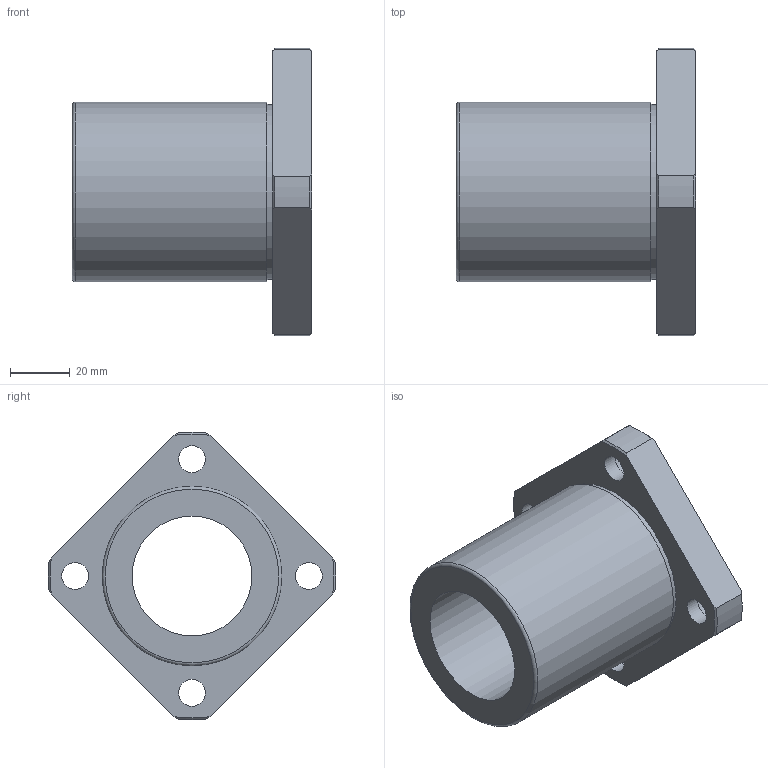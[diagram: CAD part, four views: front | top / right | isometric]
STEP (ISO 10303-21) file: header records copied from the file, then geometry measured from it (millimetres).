
FILE_DESCRIPTION(('STEP AP203'),'1');
FILE_NAME('//192.168.1.1/share/s-4 技術開発/s-4-4_CAD/s-4-4-3_見直し済み/002 修正済み/NF-V/NF-40VUU.step','2022-03-08T06:39:26',(' '),(' '),'Spatial InterOp 3D',' ',' ');
FILE_SCHEMA(('CONFIG_CONTROL_DESIGN'));
Length unit declared in the file: millimetre
Products named in the file (1): 1
Bounding box: 80 x 95.93 x 95.93 mm (x, y, z)
Volume: 154094.8 mm3; surface area: 36505.6 mm2
Topology: 1 solids, 1 shells, 36 faces, 86 edges, 58 vertices
Faces by surface type: cylinder 15, plane 12, cone 8, torus 1
Full cylindrical faces by diameter (mm): 9 x4, 14 x4, 40 x1, 58.5 x1, 60 x1
Entity records: 1026 total; most frequent: CARTESIAN_POINT 195, DIRECTION 168, ORIENTED_EDGE 142, AXIS2_PLACEMENT_3D 76, EDGE_CURVE 71, EDGE_LOOP 64, VERTEX_POINT 55, FACE_OUTER_BOUND 48
